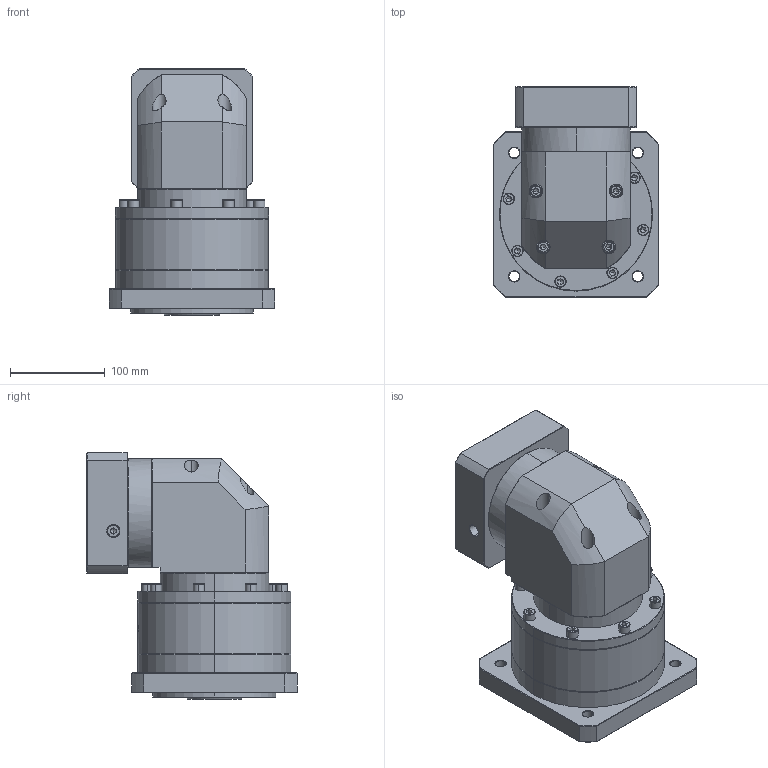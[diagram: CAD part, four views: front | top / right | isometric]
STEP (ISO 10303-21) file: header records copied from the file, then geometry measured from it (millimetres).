
FILE_DESCRIPTION (( 'STEP AP214' ), '1' );
FILE_NAME ('ZFR160A-K35-L2-P2-24-110-145-M8.step', '2023-09-03T09:44:22', ( '' ), ( '' ), 'SwSTEP 2.0', 'SolidWorks 2016', '' );
FILE_SCHEMA (( 'AUTOMOTIVE_DESIGN' ));
Length unit declared in the file: millimetre
Products named in the file (1): ZFR160A-K35-L2-P2-24-110-145-M8
Bounding box: 175 x 222.4 x 261.2 mm (x, y, z)
Volume: 4741297 mm3; surface area: 340391.2 mm2
Topology: 6 solids, 6 shells, 2413 faces, 6333 edges, 4046 vertices
Faces by surface type: plane 1139, cylinder 462, bspline 403, cone 365, torus 44
Entity records: 126526 total; most frequent: CARTESIAN_POINT 45608, ORIENTED_EDGE 12562, DIRECTION 9588, EDGE_CURVE 6281, VERTEX_POINT 4046, LINE 3382, VECTOR 3382, AXIS2_PLACEMENT_3D 3103
